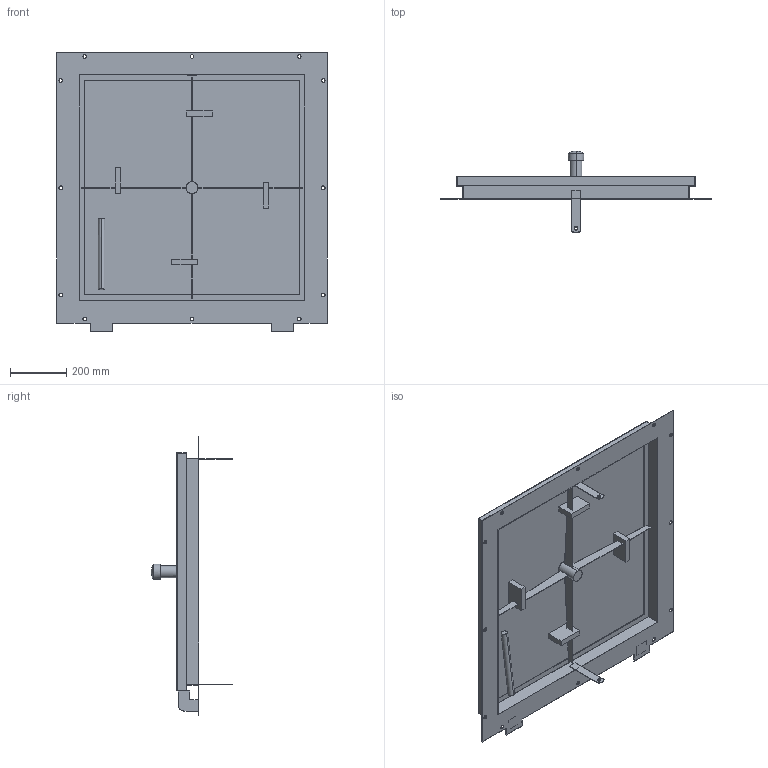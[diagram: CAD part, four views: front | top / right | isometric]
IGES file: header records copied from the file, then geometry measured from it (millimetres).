
Start section:  PTC IGES file: 52300121.igs
Global section: file name: 52300121.igs; native system: Creo Parametric by PTC Inc.; preprocessor: 2022162; author: wep; organization: Unknown; date: 20241002.101210; units: millimetre
Bounding box: 960 x 289 x 990 mm (x, y, z)
Surface area: 2936292.6 mm2 (no closed solid volume)
Topology: 0 solids, 0 shells, 174 faces, 890 edges, 888 vertices
Faces by surface type: bspline 132, revolution 42
